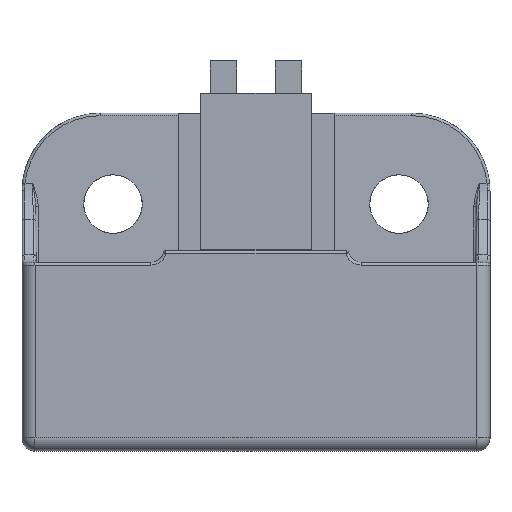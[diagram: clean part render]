
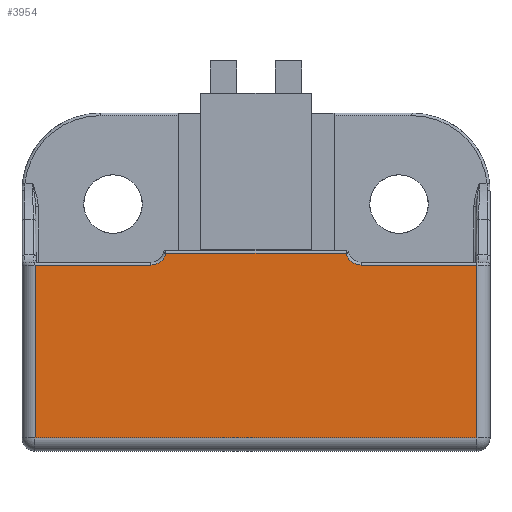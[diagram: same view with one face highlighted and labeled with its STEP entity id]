
A CAD part, top view. The second image highlights one B-rep face of the part: STEP entity #3954.
In plain terms, the highlighted planar face has unit normal (0, 0, 1).
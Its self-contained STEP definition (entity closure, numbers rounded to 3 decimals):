
#1136=DIRECTION('',(1.,0.,0.));
#1137=VECTOR('',#1136,34.);
#1138=CARTESIAN_POINT('',(-17.,1.,8.5));
#1139=LINE('',#1138,#1137);
#1143=DIRECTION('',(0.,-1.,0.));
#1144=VECTOR('',#1143,13.3);
#1145=CARTESIAN_POINT('',(-17.,14.3,8.5));
#1146=LINE('',#1145,#1144);
#1150=DIRECTION('',(-1.,0.,0.));
#1151=VECTOR('',#1150,8.905);
#1152=CARTESIAN_POINT('',(-8.095,14.3,8.5));
#1153=LINE('',#1152,#1151);
#1157=CARTESIAN_POINT('',(-8.095,15.5,8.5));
#1158=DIRECTION('',(0.,0.,-1.));
#1159=DIRECTION('',(0.968,-0.25,0.));
#1160=AXIS2_PLACEMENT_3D('',#1157,#1158,#1159);
#1165=DIRECTION('',(1.,0.,0.));
#1166=VECTOR('',#1165,13.866);
#1167=CARTESIAN_POINT('',(-6.933,15.2,8.5));
#1168=LINE('',#1167,#1166);
#1172=CARTESIAN_POINT('',(8.095,15.5,8.5));
#1173=DIRECTION('',(0.,0.,-1.));
#1174=DIRECTION('',(0.,-1.,0.));
#1175=AXIS2_PLACEMENT_3D('',#1172,#1173,#1174);
#1180=DIRECTION('',(-1.,0.,0.));
#1181=VECTOR('',#1180,8.905);
#1182=CARTESIAN_POINT('',(17.,14.3,8.5));
#1183=LINE('',#1182,#1181);
#1187=DIRECTION('',(0.,1.,0.));
#1188=VECTOR('',#1187,13.3);
#1189=CARTESIAN_POINT('',(17.,1.,8.5));
#1190=LINE('',#1189,#1188);
#2620=CARTESIAN_POINT('',(8.095,14.3,8.5));
#2622=VERTEX_POINT('',#2620);
#2649=CARTESIAN_POINT('',(-8.095,14.3,8.5));
#2651=VERTEX_POINT('',#2649);
#2727=CARTESIAN_POINT('',(-17.,1.,8.5));
#2728=CARTESIAN_POINT('',(17.,1.,8.5));
#2729=VERTEX_POINT('',#2727);
#2730=VERTEX_POINT('',#2728);
#2735=CARTESIAN_POINT('',(17.,14.3,8.5));
#2736=VERTEX_POINT('',#2735);
#2759=CARTESIAN_POINT('',(-17.,14.3,8.5));
#2760=VERTEX_POINT('',#2759);
#2781=CARTESIAN_POINT('',(6.933,15.2,8.5));
#2782=VERTEX_POINT('',#2781);
#2785=CARTESIAN_POINT('',(-6.933,15.2,8.5));
#2786=VERTEX_POINT('',#2785);
#3934=CARTESIAN_POINT('',(0.,0.,8.5));
#3935=DIRECTION('',(0.,0.,1.));
#3936=DIRECTION('',(1.,0.,0.));
#3937=AXIS2_PLACEMENT_3D('',#3934,#3935,#3936);
#3938=PLANE('',#3937);
#3939=ORIENTED_EDGE('',*,*,#3901,.F.);
#3940=ORIENTED_EDGE('',*,*,#3924,.F.);
#3942=ORIENTED_EDGE('',*,*,#3941,.F.);
#3944=ORIENTED_EDGE('',*,*,#3943,.F.);
#3946=ORIENTED_EDGE('',*,*,#3945,.T.);
#3948=ORIENTED_EDGE('',*,*,#3947,.F.);
#3950=ORIENTED_EDGE('',*,*,#3949,.F.);
#3951=ORIENTED_EDGE('',*,*,#3849,.F.);
#3952=EDGE_LOOP('',(#3939,#3940,#3942,#3944,#3946,#3948,#3950,#3951));
#3953=FACE_OUTER_BOUND('',#3952,.F.);
#3954=ADVANCED_FACE('',(#3953),#3938,.T.);
#1161=CIRCLE('',#1160,1.2);
#1176=CIRCLE('',#1175,1.2);
#3849=EDGE_CURVE('',#2730,#2736,#1190,.T.);
#3901=EDGE_CURVE('',#2729,#2730,#1139,.T.);
#3924=EDGE_CURVE('',#2760,#2729,#1146,.T.);
#3941=EDGE_CURVE('',#2651,#2760,#1153,.T.);
#3943=EDGE_CURVE('',#2786,#2651,#1161,.T.);
#3945=EDGE_CURVE('',#2786,#2782,#1168,.T.);
#3947=EDGE_CURVE('',#2622,#2782,#1176,.T.);
#3949=EDGE_CURVE('',#2736,#2622,#1183,.T.);
